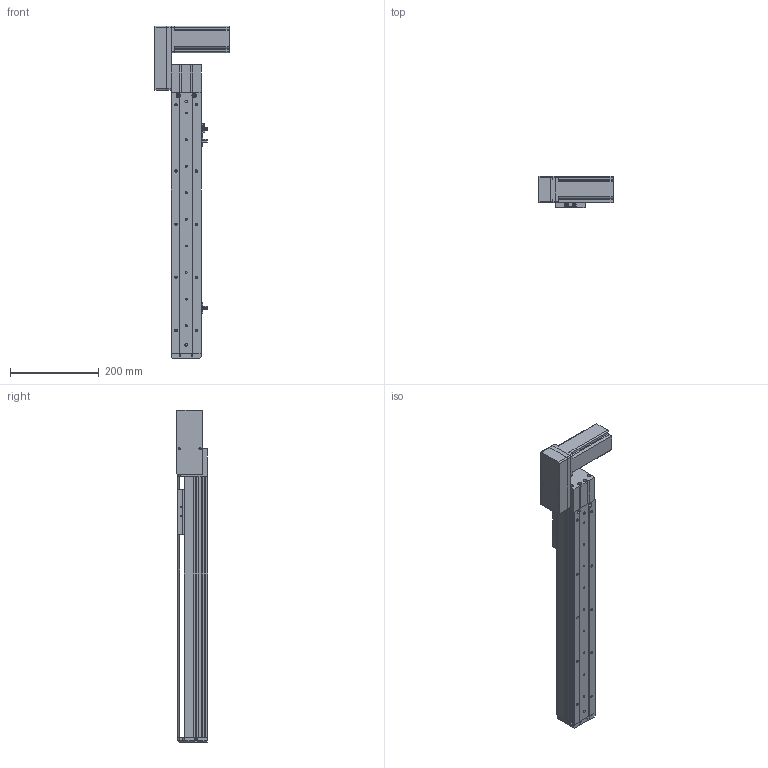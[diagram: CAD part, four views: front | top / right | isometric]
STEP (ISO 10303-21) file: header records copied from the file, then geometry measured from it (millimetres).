
FILE_DESCRIPTION (( 'STEP AP214' ), '1' );
FILE_NAME ('KSD68BS-S400-MRB-CM.STEP', '2019-08-22T05:49:10', ( '微软用户' ), ( '微软中国' ), 'SwSTEP 2.0', 'SolidWorks 2014', '' );
FILE_SCHEMA (( 'AUTOMOTIVE_DESIGN' ));
Length unit declared in the file: millimetre
Products named in the file (11): 悵誘欶奻狟殏; 68宽马达安装板连板上折同步带; 68宽单导轨半封闭同步带主动轮座右; 68单导轨同步带半封闭端板; KSD68BS 400俴最裔啣圉猾敕; 覜茼え68遵圉猾敕; KSD68BS半封闭同步带传动导轨座; U倰嫖萇EEㄜSX672; 台达ECMA－C20604AS伺服电机（400W); KSD68BS 400俴最菁啣圉猾敕; KSD68BS-S400-MRB-CM
Assembly tree (12 placements, depth 2):
  KSD68BS-S400-MRB-CM
    KSD68BS 400俴最菁啣圉猾敕
    台达ECMA－C20604AS伺服电机（400W)
    U倰嫖萇EEㄜSX672  x3
    KSD68BS半封闭同步带传动导轨座
    覜茼え68遵圉猾敕
    KSD68BS 400俴最裔啣圉猾敕
    68单导轨同步带半封闭端板
    68宽单导轨半封闭同步带主动轮座右
    68宽马达安装板连板上折同步带
    悵誘欶奻狟殏
Bounding box: 167.2 x 70.5 x 749.5 mm (x, y, z)
Volume: 1614186.8 mm3; surface area: 513240.7 mm2
Topology: 13 solids, 13 shells, 1256 faces, 3550 edges, 2304 vertices
Faces by surface type: cylinder 588, plane 585, cone 83
Entity records: 43467 total; most frequent: CARTESIAN_POINT 7886, DIRECTION 5922, ORIENTED_EDGE 5852, EDGE_CURVE 2926, AXIS2_PLACEMENT_3D 2124, VERTEX_POINT 1928, LINE 1674, VECTOR 1674
